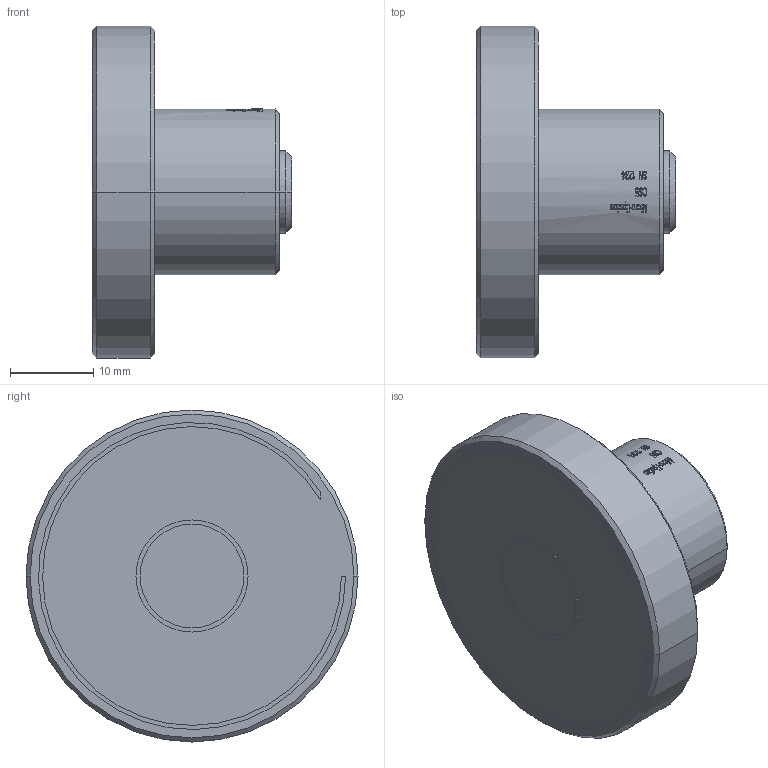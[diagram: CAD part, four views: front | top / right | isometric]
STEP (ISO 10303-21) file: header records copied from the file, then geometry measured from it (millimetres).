
FILE_DESCRIPTION((''),'2;1');
FILE_NAME('CS5','2009-08-25T',('11000065'),(''),'PRO/ENGINEER BY PARAMETRIC TECHNOLOGY CORPORATION, 2008490','PRO/ENGINEER BY PARAMETRIC TECHNOLOGY CORPORATION, 2008490','');
FILE_SCHEMA(('AUTOMOTIVE_DESIGN { 1 2 10303 214 0 1 1 1 }'));
Length unit declared in the file: millimetre
Products named in the file (1): CS5
Bounding box: 24.02 x 40 x 40 mm (x, y, z)
Volume: 13963.7 mm3; surface area: 4564.6 mm2
Topology: 1 solids, 1 shells, 677 faces, 1903 edges, 1266 vertices
Faces by surface type: plane 619, cylinder 50, cone 8
Entity records: 27750 total; most frequent: CARTESIAN_POINT 5506, ORIENTED_EDGE 3806, DIRECTION 2651, PRESENTATION_STYLE_ASSIGNMENT 1939, STYLED_ITEM 1906, CURVE_STYLE 1903, EDGE_CURVE 1903, VERTEX_POINT 1266
